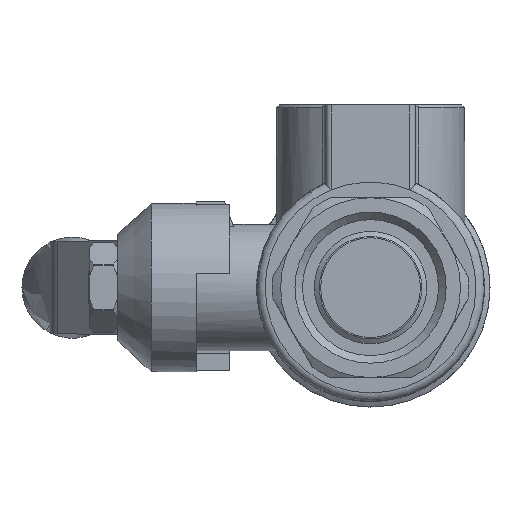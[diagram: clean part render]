
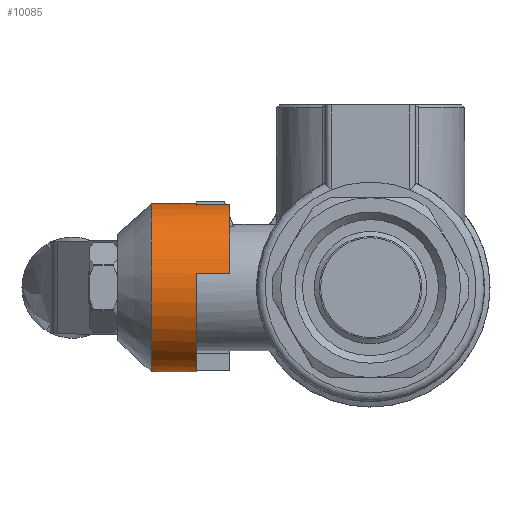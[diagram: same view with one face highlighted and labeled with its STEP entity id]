
A CAD part, left-side view. The second image highlights one B-rep face of the part: STEP entity #10085.
In plain terms, the highlighted cylindrical face has radius 15 mm (diameter 30 mm), a full revolution.
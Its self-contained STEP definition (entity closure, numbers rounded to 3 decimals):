
#201=B_SPLINE_CURVE_WITH_KNOTS('',3,(#16515,#16516,#16517,#16518,#16519,
#16520),.UNSPECIFIED.,.F.,.F.,(4,2,4),(0.22,0.224,
0.225),.UNSPECIFIED.);
#204=B_SPLINE_CURVE_WITH_KNOTS('',3,(#16634,#16635,#16636,#16637,#16638,
#16639),.UNSPECIFIED.,.F.,.F.,(4,2,4),(0.565,0.567,
0.571),.UNSPECIFIED.);
#525=ELLIPSE('',#10848,22.578,15.);
#526=ELLIPSE('',#10849,20.069,15.);
#527=ELLIPSE('',#10851,20.069,15.);
#528=ELLIPSE('',#10852,22.578,15.);
#652=CYLINDRICAL_SURFACE('',#10838,15.);
#869=CIRCLE('',#10839,15.);
#870=CIRCLE('',#10840,15.);
#871=CIRCLE('',#10841,15.);
#872=CIRCLE('',#10842,15.);
#873=CIRCLE('',#10843,15.);
#874=CIRCLE('',#10844,15.);
#875=CIRCLE('',#10845,15.);
#876=CIRCLE('',#10846,15.);
#877=CIRCLE('',#10847,15.);
#878=CIRCLE('',#10850,15.);
#1550=FACE_OUTER_BOUND('',#2141,.T.);
#2141=EDGE_LOOP('',(#7624,#7625,#7626,#7627,#7628,#7629,#7630,#7631,#7632,
#7633,#7634,#7635,#7636,#7637,#7638,#7639,#7640,#7641,#7642,#7643,#7644,
#7645,#7646,#7647));
#2925=LINE('',#16844,#3579);
#2926=LINE('',#16848,#3580);
#2927=LINE('',#16852,#3581);
#2928=LINE('',#16856,#3582);
#2929=LINE('',#16860,#3583);
#2930=LINE('',#16872,#3584);
#2931=LINE('',#16876,#3585);
#3579=VECTOR('',#12657,15.);
#3580=VECTOR('',#12660,10.);
#3581=VECTOR('',#12663,10.);
#3582=VECTOR('',#12666,10.);
#3583=VECTOR('',#12669,10.);
#3584=VECTOR('',#12682,10.);
#3585=VECTOR('',#12685,10.);
#4255=VERTEX_POINT('',#16503);
#4258=VERTEX_POINT('',#16513);
#4268=VERTEX_POINT('',#16632);
#4269=VERTEX_POINT('',#16633);
#4289=VERTEX_POINT('',#16841);
#4290=VERTEX_POINT('',#16843);
#4291=VERTEX_POINT('',#16845);
#4292=VERTEX_POINT('',#16847);
#4293=VERTEX_POINT('',#16849);
#4294=VERTEX_POINT('',#16851);
#4295=VERTEX_POINT('',#16853);
#4296=VERTEX_POINT('',#16855);
#4297=VERTEX_POINT('',#16857);
#4298=VERTEX_POINT('',#16859);
#4299=VERTEX_POINT('',#16861);
#4300=VERTEX_POINT('',#16863);
#4301=VERTEX_POINT('',#16867);
#4302=VERTEX_POINT('',#16869);
#4303=VERTEX_POINT('',#16871);
#4304=VERTEX_POINT('',#16873);
#4305=VERTEX_POINT('',#16875);
#4306=VERTEX_POINT('',#16877);
#5492=EDGE_CURVE('',#4255,#4258,#201,.T.);
#5504=EDGE_CURVE('',#4268,#4269,#204,.T.);
#5539=EDGE_CURVE('',#4289,#4269,#869,.T.);
#5540=EDGE_CURVE('',#4289,#4290,#2925,.T.);
#5541=EDGE_CURVE('',#4290,#4291,#870,.T.);
#5542=EDGE_CURVE('',#4291,#4292,#2926,.T.);
#5543=EDGE_CURVE('',#4293,#4292,#871,.T.);
#5544=EDGE_CURVE('',#4294,#4293,#2927,.T.);
#5545=EDGE_CURVE('',#4294,#4295,#872,.T.);
#5546=EDGE_CURVE('',#4295,#4296,#2928,.T.);
#5547=EDGE_CURVE('',#4297,#4296,#873,.T.);
#5548=EDGE_CURVE('',#4298,#4297,#2929,.T.);
#5549=EDGE_CURVE('',#4298,#4299,#874,.T.);
#5550=EDGE_CURVE('',#4300,#4299,#875,.T.);
#5551=EDGE_CURVE('',#4300,#4290,#876,.T.);
#5552=EDGE_CURVE('',#4255,#4289,#877,.T.);
#5553=EDGE_CURVE('',#4301,#4258,#525,.T.);
#5554=EDGE_CURVE('',#4302,#4301,#526,.T.);
#5555=EDGE_CURVE('',#4303,#4302,#2930,.T.);
#5556=EDGE_CURVE('',#4304,#4303,#878,.T.);
#5557=EDGE_CURVE('',#4305,#4304,#2931,.T.);
#5558=EDGE_CURVE('',#4306,#4305,#527,.T.);
#5559=EDGE_CURVE('',#4268,#4306,#528,.T.);
#7624=ORIENTED_EDGE('',*,*,#5504,.T.);
#7625=ORIENTED_EDGE('',*,*,#5539,.F.);
#7626=ORIENTED_EDGE('',*,*,#5540,.T.);
#7627=ORIENTED_EDGE('',*,*,#5541,.T.);
#7628=ORIENTED_EDGE('',*,*,#5542,.T.);
#7629=ORIENTED_EDGE('',*,*,#5543,.F.);
#7630=ORIENTED_EDGE('',*,*,#5544,.F.);
#7631=ORIENTED_EDGE('',*,*,#5545,.T.);
#7632=ORIENTED_EDGE('',*,*,#5546,.T.);
#7633=ORIENTED_EDGE('',*,*,#5547,.F.);
#7634=ORIENTED_EDGE('',*,*,#5548,.F.);
#7635=ORIENTED_EDGE('',*,*,#5549,.T.);
#7636=ORIENTED_EDGE('',*,*,#5550,.F.);
#7637=ORIENTED_EDGE('',*,*,#5551,.T.);
#7638=ORIENTED_EDGE('',*,*,#5540,.F.);
#7639=ORIENTED_EDGE('',*,*,#5552,.F.);
#7640=ORIENTED_EDGE('',*,*,#5492,.T.);
#7641=ORIENTED_EDGE('',*,*,#5553,.F.);
#7642=ORIENTED_EDGE('',*,*,#5554,.F.);
#7643=ORIENTED_EDGE('',*,*,#5555,.F.);
#7644=ORIENTED_EDGE('',*,*,#5556,.F.);
#7645=ORIENTED_EDGE('',*,*,#5557,.F.);
#7646=ORIENTED_EDGE('',*,*,#5558,.F.);
#7647=ORIENTED_EDGE('',*,*,#5559,.F.);
#10085=ADVANCED_FACE('',(#1550),#652,.T.);
#10838=AXIS2_PLACEMENT_3D('',#16840,#12653,#12654);
#10839=AXIS2_PLACEMENT_3D('',#16842,#12655,#12656);
#10840=AXIS2_PLACEMENT_3D('',#16846,#12658,#12659);
#10841=AXIS2_PLACEMENT_3D('',#16850,#12661,#12662);
#10842=AXIS2_PLACEMENT_3D('',#16854,#12664,#12665);
#10843=AXIS2_PLACEMENT_3D('',#16858,#12667,#12668);
#10844=AXIS2_PLACEMENT_3D('',#16862,#12670,#12671);
#10845=AXIS2_PLACEMENT_3D('',#16864,#12672,#12673);
#10846=AXIS2_PLACEMENT_3D('',#16865,#12674,#12675);
#10847=AXIS2_PLACEMENT_3D('',#16866,#12676,#12677);
#10848=AXIS2_PLACEMENT_3D('',#16868,#12678,#12679);
#10849=AXIS2_PLACEMENT_3D('',#16870,#12680,#12681);
#10850=AXIS2_PLACEMENT_3D('',#16874,#12683,#12684);
#10851=AXIS2_PLACEMENT_3D('',#16878,#12686,#12687);
#10852=AXIS2_PLACEMENT_3D('',#16879,#12688,#12689);
#12653=DIRECTION('center_axis',(0.,1.,0.));
#12654=DIRECTION('ref_axis',(-1.,0.,0.));
#12655=DIRECTION('center_axis',(0.,1.,0.));
#12656=DIRECTION('ref_axis',(1.,0.,0.));
#12657=DIRECTION('',(0.,-1.,0.));
#12658=DIRECTION('center_axis',(0.,1.,0.));
#12659=DIRECTION('ref_axis',(1.,0.,0.));
#12660=DIRECTION('',(0.,-1.,0.));
#12661=DIRECTION('center_axis',(0.,-1.,0.));
#12662=DIRECTION('ref_axis',(0.167,0.,-0.986));
#12663=DIRECTION('',(0.,-1.,0.));
#12664=DIRECTION('center_axis',(0.,1.,0.));
#12665=DIRECTION('ref_axis',(1.,0.,0.));
#12666=DIRECTION('',(0.,-1.,0.));
#12667=DIRECTION('center_axis',(0.,-1.,0.));
#12668=DIRECTION('ref_axis',(-0.184,0.,0.983));
#12669=DIRECTION('',(0.,-1.,0.));
#12670=DIRECTION('center_axis',(0.,1.,0.));
#12671=DIRECTION('ref_axis',(1.,0.,0.));
#12672=DIRECTION('center_axis',(0.,-1.,0.));
#12673=DIRECTION('ref_axis',(-1.,0.,0.));
#12674=DIRECTION('center_axis',(0.,1.,0.));
#12675=DIRECTION('ref_axis',(1.,0.,0.));
#12676=DIRECTION('center_axis',(0.,1.,0.));
#12677=DIRECTION('ref_axis',(1.,0.,0.));
#12678=DIRECTION('center_axis',(-0.747,-0.664,0.));
#12679=DIRECTION('ref_axis',(-0.664,0.747,0.));
#12680=DIRECTION('center_axis',(-0.664,0.747,0.));
#12681=DIRECTION('ref_axis',(-0.747,-0.664,0.));
#12682=DIRECTION('',(0.,-1.,0.));
#12683=DIRECTION('center_axis',(0.,1.,0.));
#12684=DIRECTION('ref_axis',(1.,0.,0.));
#12685=DIRECTION('',(0.,1.,0.));
#12686=DIRECTION('center_axis',(-0.664,0.747,0.));
#12687=DIRECTION('ref_axis',(-0.747,-0.664,0.));
#12688=DIRECTION('center_axis',(-0.747,-0.664,0.));
#12689=DIRECTION('ref_axis',(-0.664,0.747,0.));
#16503=CARTESIAN_POINT('',(14.198,39.,4.84));
#16513=CARTESIAN_POINT('',(14.215,38.979,4.789));
#16515=CARTESIAN_POINT('Ctrl Pts',(14.198,39.,4.84));
#16516=CARTESIAN_POINT('Ctrl Pts',(14.202,38.995,4.829));
#16517=CARTESIAN_POINT('Ctrl Pts',(14.206,38.99,4.817));
#16518=CARTESIAN_POINT('Ctrl Pts',(14.211,38.983,4.8));
#16519=CARTESIAN_POINT('Ctrl Pts',(14.213,38.981,4.795));
#16520=CARTESIAN_POINT('Ctrl Pts',(14.215,38.979,4.789));
#16632=CARTESIAN_POINT('',(14.215,38.979,-4.789));
#16633=CARTESIAN_POINT('',(14.198,39.,-4.84));
#16634=CARTESIAN_POINT('Ctrl Pts',(14.215,38.979,-4.789));
#16635=CARTESIAN_POINT('Ctrl Pts',(14.213,38.981,-4.795));
#16636=CARTESIAN_POINT('Ctrl Pts',(14.211,38.983,-4.8));
#16637=CARTESIAN_POINT('Ctrl Pts',(14.206,38.99,-4.817));
#16638=CARTESIAN_POINT('Ctrl Pts',(14.202,38.995,-4.829));
#16639=CARTESIAN_POINT('Ctrl Pts',(14.198,39.,-4.84));
#16840=CARTESIAN_POINT('Origin',(0.,35.,0.));
#16841=CARTESIAN_POINT('',(15.,39.,0.));
#16842=CARTESIAN_POINT('Origin',(0.,39.,
0.));
#16843=CARTESIAN_POINT('',(15.,31.,0.));
#16844=CARTESIAN_POINT('',(15.,35.,0.));
#16845=CARTESIAN_POINT('',(14.79,31.,-2.5));
#16846=CARTESIAN_POINT('Origin',(0.,31.,
0.));
#16847=CARTESIAN_POINT('',(14.79,25.,-2.5));
#16848=CARTESIAN_POINT('',(14.79,31.,-2.5));
#16849=CARTESIAN_POINT('',(2.5,25.,-14.79));
#16850=CARTESIAN_POINT('Origin',(0.,25.,
0.));
#16851=CARTESIAN_POINT('',(2.5,31.,-14.79));
#16852=CARTESIAN_POINT('',(2.5,31.,-14.79));
#16853=CARTESIAN_POINT('',(-14.79,31.,2.5));
#16854=CARTESIAN_POINT('Origin',(0.,31.,
0.));
#16855=CARTESIAN_POINT('',(-14.79,25.,2.5));
#16856=CARTESIAN_POINT('',(-14.79,31.,2.5));
#16857=CARTESIAN_POINT('',(-2.766,25.,14.743));
#16858=CARTESIAN_POINT('Origin',(0.,25.,
0.));
#16859=CARTESIAN_POINT('',(-2.766,31.,14.743));
#16860=CARTESIAN_POINT('',(-2.766,31.,14.743));
#16861=CARTESIAN_POINT('',(-2.527,31.,14.786));
#16862=CARTESIAN_POINT('Origin',(0.,31.,
0.));
#16863=CARTESIAN_POINT('',(2.527,31.,14.786));
#16864=CARTESIAN_POINT('Origin',(0.,31.,
0.));
#16865=CARTESIAN_POINT('Origin',(0.,31.,
0.));
#16866=CARTESIAN_POINT('Origin',(0.,39.,
0.));
#16867=CARTESIAN_POINT('',(14.238,38.952,4.72));
#16868=CARTESIAN_POINT('Origin',(0.,54.97,
0.));
#16869=CARTESIAN_POINT('',(12.466,37.377,8.343));
#16870=CARTESIAN_POINT('Origin',(0.,26.296,
0.));
#16871=CARTESIAN_POINT('',(12.466,39.,8.343));
#16872=CARTESIAN_POINT('',(12.466,35.,8.343));
#16873=CARTESIAN_POINT('',(12.466,39.,-8.343));
#16874=CARTESIAN_POINT('Origin',(0.,39.,
0.));
#16875=CARTESIAN_POINT('',(12.466,37.377,-8.343));
#16876=CARTESIAN_POINT('',(12.466,35.,-8.343));
#16877=CARTESIAN_POINT('',(14.238,38.952,-4.72));
#16878=CARTESIAN_POINT('Origin',(0.,26.296,
0.));
#16879=CARTESIAN_POINT('Origin',(0.,54.97,
0.));
